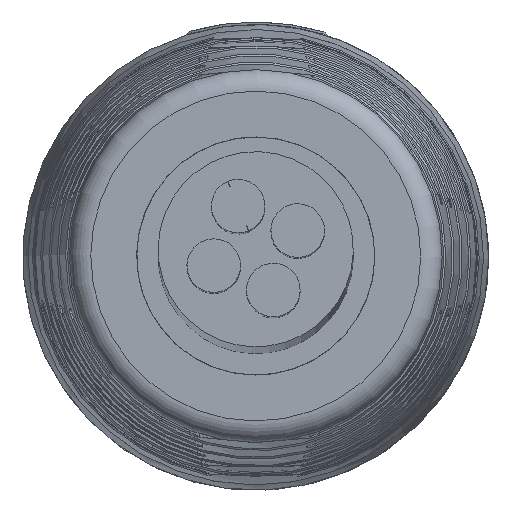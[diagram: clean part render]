
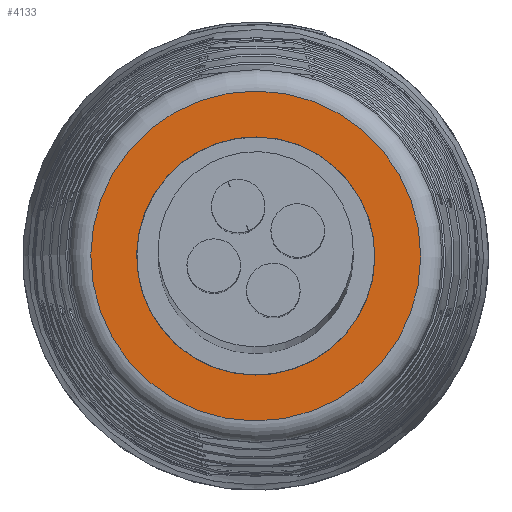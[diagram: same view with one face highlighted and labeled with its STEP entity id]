
A CAD part, top view. The second image highlights one B-rep face of the part: STEP entity #4133.
In plain terms, the highlighted planar face has unit normal (0, 0, 1).
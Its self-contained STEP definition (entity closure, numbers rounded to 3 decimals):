
#15 = FACE_OUTER_BOUND ( 'NONE', #19580, .T. ) ;
#136 = CARTESIAN_POINT ( 'NONE',  ( 14.103, 5.482, -227.37 ) ) ;
#388 = PLANE ( 'NONE',  #1585 ) ;
#1414 = DIRECTION ( 'NONE',  ( 0., 0., 1. ) ) ;
#1585 = AXIS2_PLACEMENT_3D ( 'NONE', #136, #19581, #19707 ) ;
#2718 = CARTESIAN_POINT ( 'NONE',  ( 19.652, 5.448, -227.37 ) ) ;
#4133 = ADVANCED_FACE ( 'NONE', ( #15, #21336 ), #388, .T. ) ;
#5643 = EDGE_CURVE ( 'NONE', #9217, #9217, #16793, .T. ) ;
#7121 = DIRECTION ( 'NONE',  ( 1., -0.006, 0. ) ) ;
#7391 = CIRCLE ( 'NONE', #17054, 5.55 ) ;
#9217 = VERTEX_POINT ( 'NONE', #12754 ) ;
#10374 = ORIENTED_EDGE ( 'NONE', *, *, #5643, .T. ) ;
#10761 = AXIS2_PLACEMENT_3D ( 'NONE', #20497, #1414, #7121 ) ;
#10898 = DIRECTION ( 'NONE',  ( 1., -0.006, 0. ) ) ;
#12678 = DIRECTION ( 'NONE',  ( 0., 0., 1. ) ) ;
#12754 = CARTESIAN_POINT ( 'NONE',  ( 21.794, 5.435, -227.37 ) ) ;
#14248 = ORIENTED_EDGE ( 'NONE', *, *, #15785, .F. ) ;
#15785 = EDGE_CURVE ( 'NONE', #17614, #17614, #7391, .T. ) ;
#16160 = EDGE_LOOP ( 'NONE', ( #14248 ) ) ;
#16793 = CIRCLE ( 'NONE', #10761, 7.692 ) ;
#17054 = AXIS2_PLACEMENT_3D ( 'NONE', #18465, #12678, #10898 ) ;
#17614 = VERTEX_POINT ( 'NONE', #2718 ) ;
#18465 = CARTESIAN_POINT ( 'NONE',  ( 14.103, 5.482, -227.37 ) ) ;
#19580 = EDGE_LOOP ( 'NONE', ( #10374 ) ) ;
#19581 = DIRECTION ( 'NONE',  ( 0., 0., 1. ) ) ;
#19707 = DIRECTION ( 'NONE',  ( 1., -0.006, 0. ) ) ;
#20497 = CARTESIAN_POINT ( 'NONE',  ( 14.103, 5.482, -227.37 ) ) ;
#21336 = FACE_BOUND ( 'NONE', #16160, .T. ) ;
